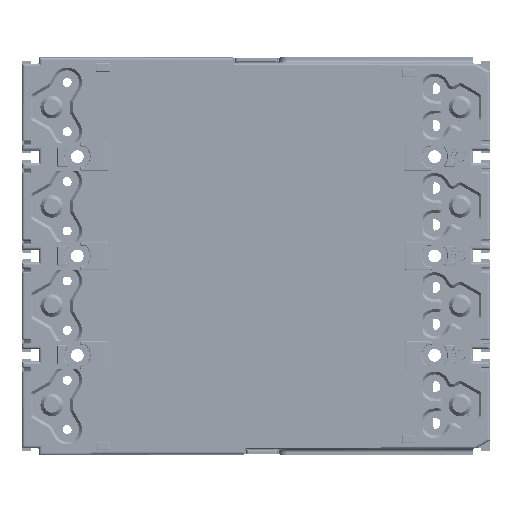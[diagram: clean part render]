
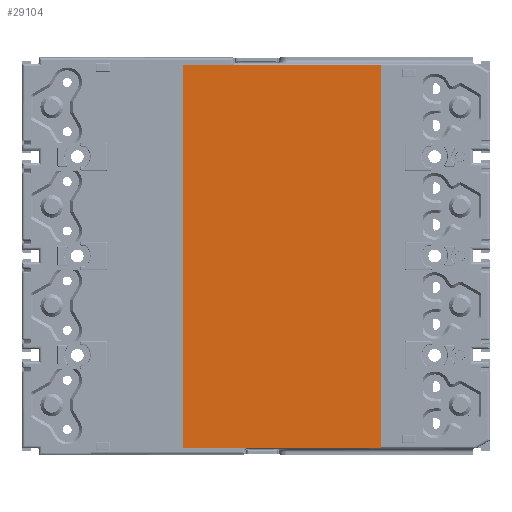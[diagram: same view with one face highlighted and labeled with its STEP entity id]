
A CAD part, front view. The second image highlights one B-rep face of the part: STEP entity #29104.
In plain terms, the highlighted planar face has unit normal (0, -1, 0).
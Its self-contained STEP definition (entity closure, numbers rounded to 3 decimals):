
#28973=DIRECTION('',(0.,0.,-1.));
#28974=VECTOR('',#28973,135.);
#28975=CARTESIAN_POINT('',(-23.919,-68.629,71.1));
#28976=LINE('',#28975,#28974);
#28989=DIRECTION('',(-1.,0.,0.));
#28990=VECTOR('',#28989,70.);
#28991=CARTESIAN_POINT('',(46.081,-68.629,71.1));
#28992=LINE('',#28991,#28990);
#28993=DIRECTION('',(0.,0.,1.));
#28994=VECTOR('',#28993,135.);
#28995=CARTESIAN_POINT('',(46.081,-68.629,-63.9));
#28996=LINE('',#28995,#28994);
#28997=DIRECTION('',(1.,0.,0.));
#28998=VECTOR('',#28997,70.);
#28999=CARTESIAN_POINT('',(-23.919,-68.629,-63.9));
#29000=LINE('',#28999,#28998);
#29013=CARTESIAN_POINT('',(-23.919,-68.629,71.1));
#29014=VERTEX_POINT('',#29013);
#29015=CARTESIAN_POINT('',(-23.919,-68.629,-63.9));
#29016=VERTEX_POINT('',#29015);
#29017=CARTESIAN_POINT('',(46.081,-68.629,71.1));
#29018=VERTEX_POINT('',#29017);
#29019=CARTESIAN_POINT('',(46.081,-68.629,-63.9));
#29020=VERTEX_POINT('',#29019);
#29093=CARTESIAN_POINT('',(-25.669,-68.629,-67.275));
#29094=DIRECTION('',(0.,-1.,0.));
#29095=DIRECTION('',(1.,0.,0.));
#29096=AXIS2_PLACEMENT_3D('',#29093,#29094,#29095);
#29097=PLANE('',#29096);
#29098=ORIENTED_EDGE('',*,*,#29044,.F.);
#29099=ORIENTED_EDGE('',*,*,#29061,.F.);
#29100=ORIENTED_EDGE('',*,*,#29074,.F.);
#29101=ORIENTED_EDGE('',*,*,#29086,.F.);
#29102=EDGE_LOOP('',(#29098,#29099,#29100,#29101));
#29103=FACE_OUTER_BOUND('',#29102,.F.);
#29104=ADVANCED_FACE('',(#29103),#29097,.T.);
#29044=EDGE_CURVE('',#29014,#29016,#28976,.T.);
#29061=EDGE_CURVE('',#29018,#29014,#28992,.T.);
#29074=EDGE_CURVE('',#29020,#29018,#28996,.T.);
#29086=EDGE_CURVE('',#29016,#29020,#29000,.T.);
